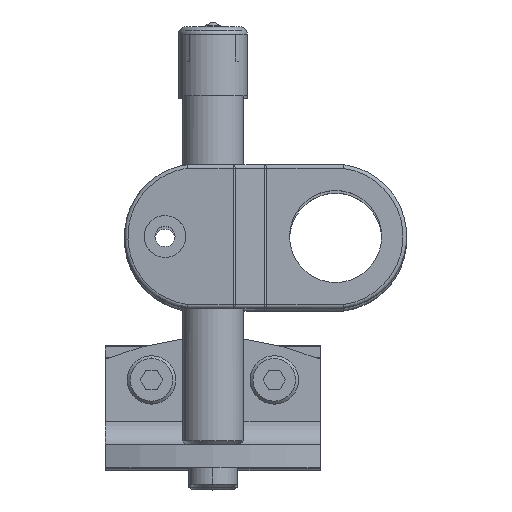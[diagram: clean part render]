
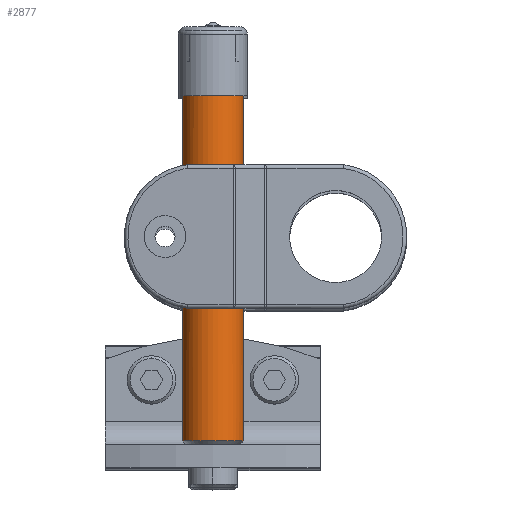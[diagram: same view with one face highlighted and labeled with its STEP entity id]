
A CAD part, top view. The second image highlights one B-rep face of the part: STEP entity #2877.
In plain terms, the highlighted cylindrical face has radius 6.35 mm (diameter 12.7 mm), a partial arc.
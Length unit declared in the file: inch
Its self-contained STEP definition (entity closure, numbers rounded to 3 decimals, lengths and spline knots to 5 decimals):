
#2624=CARTESIAN_POINT('',(0.03125,0.,0.));
#2625=DIRECTION('',(1.,0.,0.));
#2626=DIRECTION('',(0.,1.,0.));
#2627=AXIS2_PLACEMENT_3D('',#2624,#2625,#2626);
#2629=CARTESIAN_POINT('',(3.125,0.,0.));
#2630=DIRECTION('',(1.,0.,0.));
#2631=DIRECTION('',(0.,1.,0.));
#2632=AXIS2_PLACEMENT_3D('',#2629,#2630,#2631);
#2639=DIRECTION('',(-1.,0.,0.));
#2640=VECTOR('',#2639,3.09375);
#2641=CARTESIAN_POINT('',(3.125,0.25,0.));
#2642=LINE('',#2641,#2640);
#2643=DIRECTION('',(-1.,0.,0.));
#2644=VECTOR('',#2643,3.09375);
#2645=CARTESIAN_POINT('',(3.125,-0.25,0.));
#2646=LINE('',#2645,#2644);
#2647=CARTESIAN_POINT('',(3.125,0.,0.));
#2648=DIRECTION('',(1.,0.,0.));
#2649=DIRECTION('',(0.,-0.75,0.661));
#2650=AXIS2_PLACEMENT_3D('',#2647,#2648,#2649);
#2665=DIRECTION('',(1.,0.,0.));
#2666=VECTOR('',#2665,0.21875);
#2667=CARTESIAN_POINT('',(3.125,-0.1875,0.16536));
#2668=LINE('',#2667,#2666);
#2677=DIRECTION('',(1.,0.,0.));
#2678=VECTOR('',#2677,0.21875);
#2679=CARTESIAN_POINT('',(3.125,0.1875,0.16536));
#2680=LINE('',#2679,#2678);
#2689=CARTESIAN_POINT('',(3.34375,0.,0.));
#2690=DIRECTION('',(1.,0.,0.));
#2691=DIRECTION('',(0.,0.75,0.661));
#2692=AXIS2_PLACEMENT_3D('',#2689,#2690,#2691);
#2773=CARTESIAN_POINT('',(3.125,0.25,0.));
#2774=CARTESIAN_POINT('',(3.125,0.1875,0.16536));
#2775=VERTEX_POINT('',#2773);
#2776=VERTEX_POINT('',#2774);
#2777=CARTESIAN_POINT('',(3.125,-0.1875,0.16536));
#2778=CARTESIAN_POINT('',(3.125,-0.25,0.));
#2779=VERTEX_POINT('',#2777);
#2780=VERTEX_POINT('',#2778);
#2789=CARTESIAN_POINT('',(0.03125,0.25,0.));
#2790=CARTESIAN_POINT('',(0.03125,-0.25,0.));
#2791=VERTEX_POINT('',#2789);
#2792=VERTEX_POINT('',#2790);
#2793=CARTESIAN_POINT('',(3.34375,0.1875,0.16536));
#2794=CARTESIAN_POINT('',(3.34375,-0.1875,0.16536));
#2795=VERTEX_POINT('',#2793);
#2796=VERTEX_POINT('',#2794);
#2855=CARTESIAN_POINT('',(-0.16875,0.,0.));
#2856=DIRECTION('',(1.,0.,0.));
#2857=DIRECTION('',(0.,-1.,0.));
#2858=AXIS2_PLACEMENT_3D('',#2855,#2856,#2857);
#2859=CYLINDRICAL_SURFACE('',#2858,0.25);
#2861=ORIENTED_EDGE('',*,*,#2860,.T.);
#2863=ORIENTED_EDGE('',*,*,#2862,.T.);
#2865=ORIENTED_EDGE('',*,*,#2864,.T.);
#2867=ORIENTED_EDGE('',*,*,#2866,.F.);
#2869=ORIENTED_EDGE('',*,*,#2868,.T.);
#2871=ORIENTED_EDGE('',*,*,#2870,.T.);
#2872=ORIENTED_EDGE('',*,*,#2849,.F.);
#2874=ORIENTED_EDGE('',*,*,#2873,.F.);
#2875=EDGE_LOOP('',(#2861,#2863,#2865,#2867,#2869,#2871,#2872,#2874));
#2876=FACE_OUTER_BOUND('',#2875,.F.);
#2628=CIRCLE('',#2627,0.25);
#2633=CIRCLE('',#2632,0.25);
#2651=CIRCLE('',#2650,0.25);
#2693=CIRCLE('',#2692,0.25);
#2849=EDGE_CURVE('',#2791,#2792,#2628,.T.);
#2860=EDGE_CURVE('',#2775,#2776,#2633,.T.);
#2862=EDGE_CURVE('',#2776,#2795,#2680,.T.);
#2864=EDGE_CURVE('',#2795,#2796,#2693,.T.);
#2866=EDGE_CURVE('',#2779,#2796,#2668,.T.);
#2868=EDGE_CURVE('',#2779,#2780,#2651,.T.);
#2870=EDGE_CURVE('',#2780,#2792,#2646,.T.);
#2873=EDGE_CURVE('',#2775,#2791,#2642,.T.);
#2877=ADVANCED_FACE('',(#2876),#2859,.T.);
